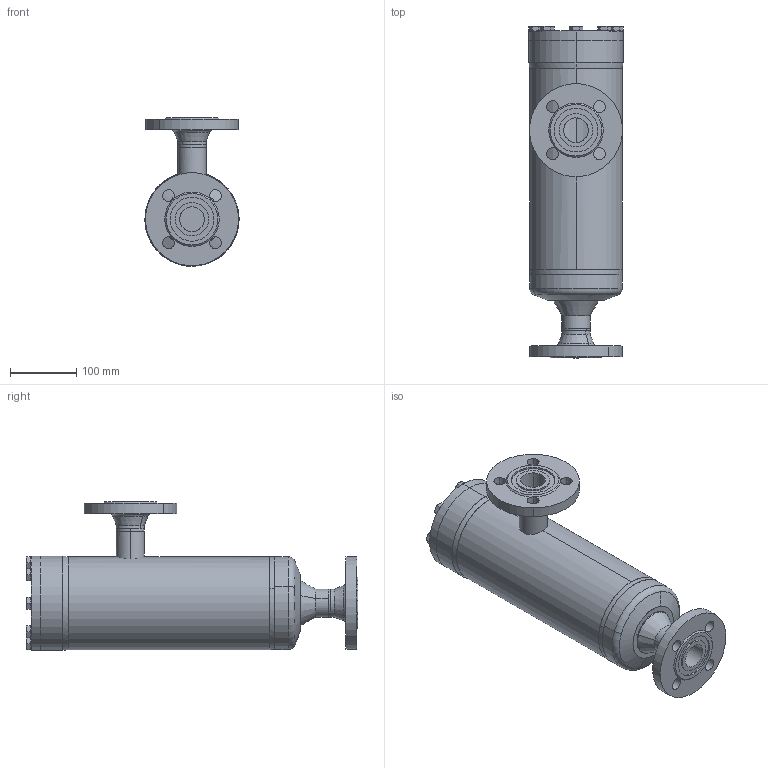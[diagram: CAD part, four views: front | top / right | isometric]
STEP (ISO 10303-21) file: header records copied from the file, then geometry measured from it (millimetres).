
FILE_DESCRIPTION (( 'STEP AP214' ), '1' );
FILE_NAME ('FT56720D13-DN32-2_DIN-FL-N_PS40.STEP', '2010-09-13T08:46:48', ( 'Eckhard Grams' ), ( 'AWP Kälte Klima Armaturen GmbH' ), 'SwSTEP 2.0', 'SolidWorks 2002296', '' );
FILE_SCHEMA (( 'AUTOMOTIVE_DESIGN' ));
Length unit declared in the file: millimetre
Products named in the file (18): FT56720D13-DN32-2_DIN-FL-N_PS40; Flansch-DIN2635-Nut_PS40_DIN-Flansch-DN032_PS40-Nut; FT56700D13-DN32-2_PS40_Standard; Geh-kpl-FT-DN32-2_Standard; bead32-Geh-Bo1_Standard; Kopfstück-FT-DN20-50_PS40_Standard; FT Boden-Führungsrohr DN32_PS25_Standard; Boden-FT-DN20-80_DN 20 bis 50-4 PN 40; Führungsrohr-FT-DN20-50_DN 32; bead-Bo-Fü-20-50_Standard; Gehäuse-FT-DN20-50_PS40_32-2; Rohrstutzen-FT-DN20-80_DN 32; bead32-Geh-Ko2_Standard; FT Deckel-Schrauben-DN20-50_PS25_Standard; Deckel56700E15-DN20-50_PS40_Standard; Sechskantschraube-DIN933_M12x 30; bead56720-32-2b_Standard; bead56720-32-2a_Standard
Assembly tree (25 placements, depth 5):
  FT56720D13-DN32-2_DIN-FL-N_PS40
    bead56720-32-2a_Standard
    bead56720-32-2b_Standard
    Flansch-DIN2635-Nut_PS40_DIN-Flansch-DN032_PS40-Nut  x2
    FT56700D13-DN32-2_PS40_Standard
      Geh-kpl-FT-DN32-2_Standard
        FT Boden-Führungsrohr DN32_PS25_Standard
          Boden-FT-DN20-80_DN 20 bis 50-4 PN 40
          Führungsrohr-FT-DN20-50_DN 32
          bead-Bo-Fü-20-50_Standard
        Rohrstutzen-FT-DN20-80_DN 32
        Kopfstück-FT-DN20-50_PS40_Standard
        bead32-Geh-Bo1_Standard
        Gehäuse-FT-DN20-50_PS40_32-2
        bead32-Geh-Ko2_Standard
      FT Deckel-Schrauben-DN20-50_PS25_Standard
        Sechskantschraube-DIN933_M12x 30  x8
        Deckel56700E15-DN20-50_PS40_Standard
Bounding box: 142.78 x 500.28 x 224 mm (x, y, z)
Volume: 2166048.4 mm3; surface area: 594747.8 mm2
Topology: 21 solids, 21 shells, 481 faces, 1066 edges, 630 vertices
Faces by surface type: cone 190, cylinder 145, plane 110, bspline 20, torus 12, sphere 4
Entity records: 14817 total; most frequent: CARTESIAN_POINT 7813, DIRECTION 1378, ORIENTED_EDGE 1220, EDGE_CURVE 610, AXIS2_PLACEMENT_3D 592, VERTEX_POINT 374, EDGE_LOOP 338, CIRCLE 306
